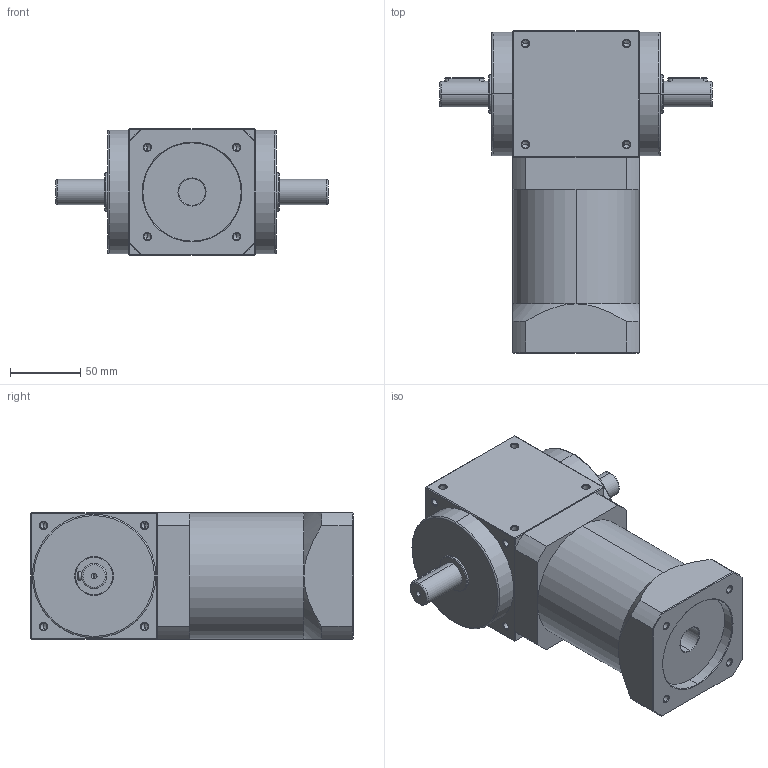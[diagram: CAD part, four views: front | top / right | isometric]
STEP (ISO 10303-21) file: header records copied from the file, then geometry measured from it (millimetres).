
FILE_DESCRIPTION (( 'STEP AP214' ), '1' );
FILE_NAME ('AT090-FL-L2-750W.STEP', '2020-03-18T06:57:51', ( 'User' ), ( 'Far123' ), 'SwSTEP 2.0', 'SolidWorks 2015', '' );
FILE_SCHEMA (( 'AUTOMOTIVE_DESIGN' ));
Length unit declared in the file: millimetre
Products named in the file (1): AT090-FL-L2-750W
Bounding box: 194 x 229.5 x 90 mm (x, y, z)
Volume: 1855232.3 mm3; surface area: 114369.7 mm2
Topology: 1 solids, 1 shells, 318 faces, 774 edges, 418 vertices
Faces by surface type: cylinder 122, cone 120, plane 68, torus 8
Entity records: 10040 total; most frequent: CARTESIAN_POINT 2063, DIRECTION 1480, ORIENTED_EDGE 1444, EDGE_CURVE 722, AXIS2_PLACEMENT_3D 571, VERTEX_POINT 418, EDGE_LOOP 354, LINE 338
